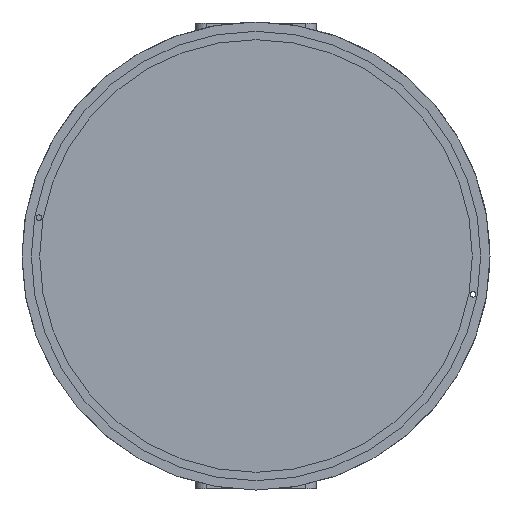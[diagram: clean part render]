
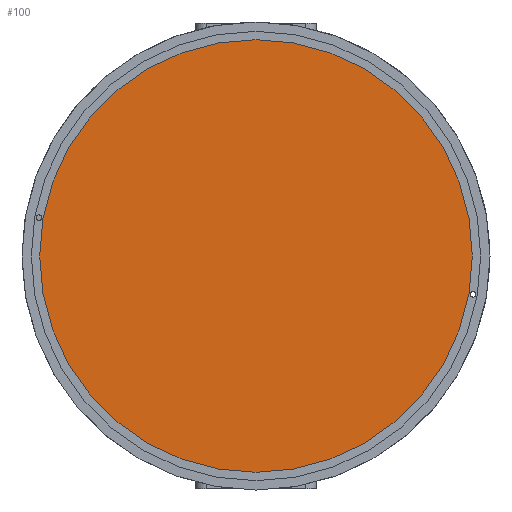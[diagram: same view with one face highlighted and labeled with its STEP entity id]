
A CAD part, front view. The second image highlights one B-rep face of the part: STEP entity #100.
In plain terms, the highlighted planar face has unit normal (0, -1, 0).
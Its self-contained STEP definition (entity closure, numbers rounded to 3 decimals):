
#100 = ADVANCED_FACE ( 'NONE', ( #3562 ), #1288, .T. ) ;
#1288 = PLANE ( 'NONE',  #4580 ) ;
#1335 = VERTEX_POINT ( 'NONE', #5235 ) ;
#1562 = DIRECTION ( 'NONE',  ( 0., -1., 0. ) ) ;
#1805 = CARTESIAN_POINT ( 'NONE',  ( 0., 0., 0. ) ) ;
#2058 = ORIENTED_EDGE ( 'NONE', *, *, #3113, .T. ) ;
#2281 = AXIS2_PLACEMENT_3D ( 'NONE', #5520, #1562, #5460 ) ;
#2655 = DIRECTION ( 'NONE',  ( 0., 0., -1. ) ) ;
#3113 = EDGE_CURVE ( 'NONE', #1335, #1335, #4056, .T. ) ;
#3157 = EDGE_LOOP ( 'NONE', ( #2058 ) ) ;
#3562 = FACE_OUTER_BOUND ( 'NONE', #3157, .T. ) ;
#3973 = DIRECTION ( 'NONE',  ( 0., -1., 0. ) ) ;
#4056 = CIRCLE ( 'NONE', #2281, 208. ) ;
#4580 = AXIS2_PLACEMENT_3D ( 'NONE', #1805, #3973, #2655 ) ;
#5235 = CARTESIAN_POINT ( 'NONE',  ( 0., 0., -208. ) ) ;
#5460 = DIRECTION ( 'NONE',  ( 0., 0., -1. ) ) ;
#5520 = CARTESIAN_POINT ( 'NONE',  ( 0., 0., 0. ) ) ;
